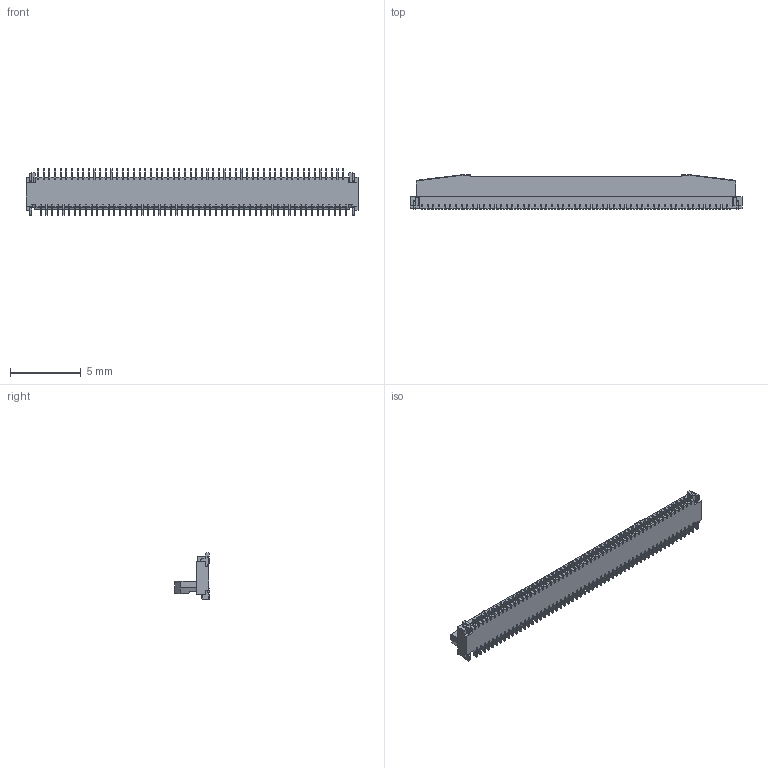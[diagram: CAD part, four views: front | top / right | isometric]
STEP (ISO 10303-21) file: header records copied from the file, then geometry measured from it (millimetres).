
FILE_DESCRIPTION (( 'STEP AP203' ), '1' );
FILE_NAME ('20617-110E-01C ASS''Y ACT OPEN STEP R5 ALL.STEP', '2017-01-19T09:18:12', ( '' ), ( '' ), 'SwSTEP 2.0', 'SolidWorks 2014', '' );
FILE_SCHEMA (( 'CONFIG_CONTROL_DESIGN' ));
Products named in the file (1): 20617-110E-01C ASS''Y ACT OPEN STEP R5 ALL
Bounding box: 23.5 x 2.45 x 3.3 mm (x, y, z)
Volume: 68.7 mm3; surface area: 286.4 mm2
Topology: 1 solids, 1 shells, 3187 faces, 9655 edges, 6360 vertices
Faces by surface type: plane 2167, cylinder 1016, cone 4
Entity records: 107939 total; most frequent: ORIENTED_EDGE 19310, CARTESIAN_POINT 19276, DIRECTION 18040, EDGE_CURVE 9655, LINE 7612, VECTOR 7612, VERTEX_POINT 6360, AXIS2_PLACEMENT_3D 5214
